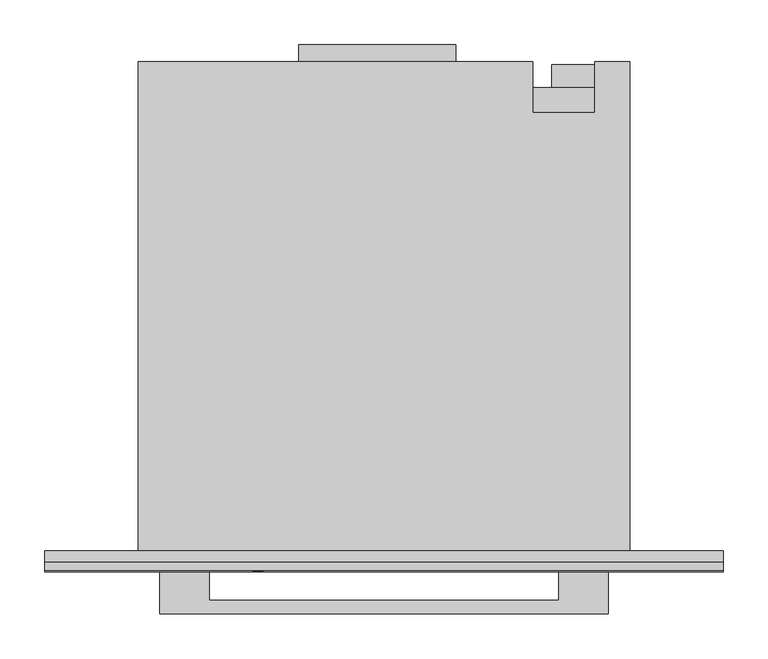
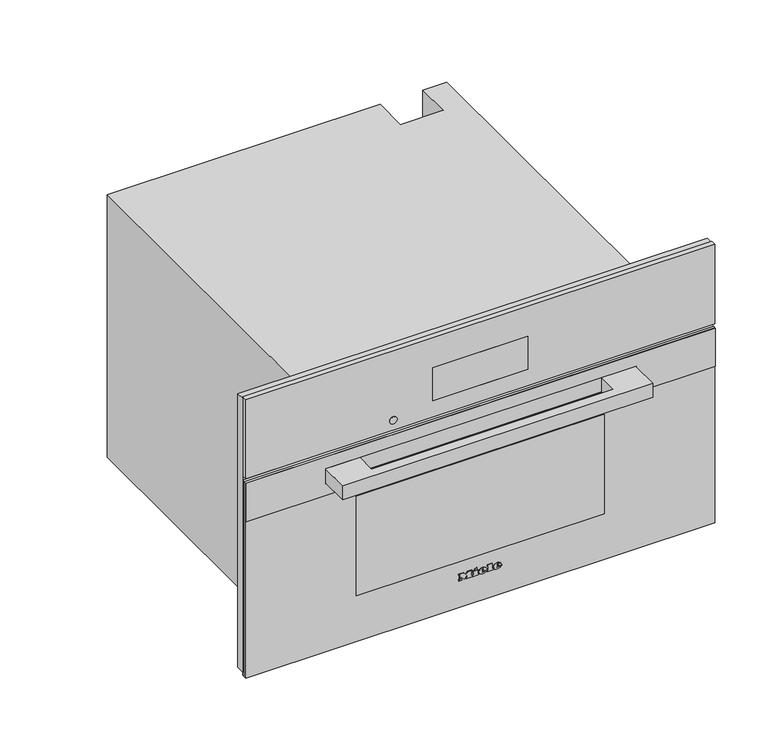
"""IFC4 building model written with IfcOpenShell, lengths in millimetres: proxy geometry, 11876080_USA_DGC7870_EDST-CLST : 23787042_USA_11876080_DGC7870_EDST-CLST."""

from ifc_helpers import new_model, si_unit, point, frame, frame_2d, origin, place, context, project, spatial, polyline, circle_curve, ellipse_curve, trimmed, segment, composite_curve, outline, extrude, faceted_brep, source, transform, mapped, element, save
from ifc_brep_helpers import plane_surface, cylinder_surface, revolved_surface, extruded_surface, advanced_brep


def specialty_equipment_35e1a356(model_context):
    return source(origin(), model_context, "Body", "SolidModel", [
        faceted_brep([(378.5, -13.0, 476.0), (-378.5, -13.0, 476.0), (-378.5, -13.0, 9.0), (-272.5, -13.0, 9.0), (-272.5, -13.0, 344.0), (272.5, -13.0, 344.0), (272.5, -13.0, 9.0), (378.5, -13.0, 9.0), (378.5, 0.0, 476.0), (378.5, 0.0, 9.0), (-378.5, 0.0, 9.0), (-378.5, 0.0, 476.0), (231.0, 0.0, 58.0), (231.0, 0.0, 286.0), (-231.0, 0.0, 286.0), (-231.0, 0.0, 58.0), (272.5, -5.0, 9.0), (-272.5, -5.0, 9.0), (-272.5, -5.0, 344.0), (272.5, -5.0, 344.0), (231.0, -5.0, 286.0), (231.0, -5.0, 58.0), (-231.0, -5.0, 58.0), (-231.0, -5.0, 286.0)], [[[0, 1, 2, 3, 4, 5, 6, 7]], [[8, 9, 10, 11], [12, 13, 14, 15]], [[1, 0, 8, 11]], [[2, 1, 11, 10]], [[10, 9, 7, 6, 16, 17, 3, 2]], [[0, 7, 9, 8]], [[18, 19, 5, 4]], [[18, 4, 3, 17]], [[5, 19, 16, 6]], [[19, 18, 17, 16], [20, 21, 22, 23]], [[20, 13, 12, 21]], [[21, 12, 15, 22]], [[22, 15, 14, 23]], [[13, 20, 23, 14]]]),
        extrude(outline(polyline([(-95.0, 565.0), (80.0, 565.0), (80.0, 546.0), (-95.0, 546.0), (-95.0, 565.0)])), frame((0.0, 0.0, 260.0), z_axis=(0.0, 0.0, 1.0), x_axis=(1.0, 0.0, 0.0)), (0.0, 0.0, 1.0), 1.0),
        extrude(outline(polyline([(224.8383288, 537.0), (231.1236409, 537.0), (231.1236409, 526.9492425), (229.8571792, 526.9492425), (229.8571792, 535.7409796), (224.8383288, 535.7409796), (224.8383288, 537.0)])), frame((0.0, 0.0, 132.0), z_axis=(0.0, 0.0, 1.0), x_axis=(1.0, 0.0, 0.0)), (0.0, 0.0, 1.0), 1.0),
        extrude(outline(polyline([(233.0, 537.0), (240.3797826, 537.0), (240.3797826, 526.9503529), (233.15422, 526.9503529), (233.15422, 528.220938), (239.1355215, 528.220938), (239.1355215, 531.1975645), (233.4863097, 531.1975645), (233.4863097, 532.449242), (239.1355215, 532.449242), (239.1355215, 535.7448633), (233.0, 535.7448633), (233.0, 537.0)])), frame((0.0, 0.0, 132.0), z_axis=(0.0, 0.0, 1.0), x_axis=(1.0, 0.0, 0.0)), (0.0, 0.0, 1.0), 1.0),
        extrude(outline(composite_curve([segment(trimmed(circle_curve(frame_2d((233.0, 532.0)), 7.5), [point((225.5, 532.0))], [point((240.5, 532.0))], False, "CARTESIAN"), True, "CONTINUOUS"), segment(trimmed(circle_curve(frame_2d((233.0, 532.0)), 7.5), [point((240.5, 532.0))], [point((225.5, 532.0))], False, "CARTESIAN"), True, "CONTINUOUS")], self_intersect=False)), frame((0.0, 0.0, 133.0), z_axis=(0.0, 0.0, 1.0), x_axis=(1.0, 0.0, 0.0)), (0.0, 0.0, 1.0), 30.0),
        extrude(outline(polyline([(266.0, 517.0), (187.0, 517.0), (187.0, 543.0), (266.0, 543.0), (266.0, 517.0)])), frame((0.0, 0.0, 163.0), z_axis=(0.0, 0.0, 1.0), x_axis=(1.0, 0.0, 0.0)), (0.0, 0.0, 1.0), 111.0),
        faceted_brep([(-274.0, 546.0, 0.0), (-274.0, 546.0, 448.0), (166.0, 546.0, 448.0), (166.0, 546.0, 0.0), (235.0, 546.0, 448.0), (274.0, 546.0, 448.0), (274.0, 546.0, 338.0), (235.0, 546.0, 338.0), (274.0, 0.0, 448.0), (-274.0, 0.0, 448.0), (-274.0, 0.0, 0.0), (274.0, 0.0, 0.0), (231.0, 0.0, 286.0), (231.0, 0.0, 58.0), (-231.0, 0.0, 58.0), (-231.0, 0.0, 286.0), (235.0, 489.0, 448.0), (166.0, 489.0, 448.0), (166.0, 517.0, 0.0), (274.0, 517.0, 0.0), (274.0, 517.0, 338.0), (231.0, 411.0, 286.0), (-231.0, 411.0, 286.0), (-231.0, 411.0, 58.0), (231.0, 411.0, 58.0), (235.0, 489.0, 337.0), (166.0, 489.0, 337.0), (166.0, 517.0, 337.0), (235.0, 517.0, 337.0), (235.0, 517.0, 338.0)], [[[0, 1, 2, 3]], [[4, 5, 6, 7]], [[8, 9, 10, 11], [12, 13, 14, 15]], [[9, 8, 5, 4, 16, 17, 2, 1]], [[1, 0, 10, 9]], [[11, 10, 0, 3, 18, 19]], [[8, 11, 19, 20, 6, 5]], [[21, 22, 23, 24]], [[21, 24, 13, 12]], [[24, 23, 14, 13]], [[23, 22, 15, 14]], [[22, 21, 12, 15]], [[16, 25, 26, 17]], [[17, 26, 27, 18, 3, 2]], [[26, 25, 28, 27]], [[25, 16, 4, 7, 29, 28]], [[29, 20, 19, 18, 27, 28]], [[20, 29, 7, 6]]]),
        advanced_brep(
        [(26.2998, -23.0, 52.7018), (26.2998, -23.0, 53.8532), (33.9264, -23.0, 53.8532), (20.6568, -23.0, 53.8532), (23.7918, -23.0, 50.0), (33.7326, -23.0, 52.7018), (30.2898, -23.0, 52.7018), (27.5766, -23.0, 51.425), (26.2998, -23.0, 55.3124), (26.2998, -23.0, 56.555), (28.2492, -23.0, 56.555), (28.2492, -23.0, 55.3124), (26.2998, -22.0, 52.7018), (27.5766, -22.0, 51.425), (30.2898, -22.0, 52.7018), (33.7326, -22.0, 52.7018), (23.7918, -22.0, 50.0), (20.6568, -22.0, 53.8532), (33.9264, -22.0, 53.8532), (26.2998, -22.0, 53.8532), (26.2998, -22.0, 55.3124), (28.2492, -22.0, 55.3124), (28.2492, -22.0, 56.555), (26.2998, -22.0, 56.555)],
        [
            (0, 1),
            (1, 2),
            (2, 3, ellipse_curve(frame((27.2916, -23.0, 53.8532), z_axis=(0.0, -1.0, 0.0), x_axis=(-1.0, 0.0, 0.0)), 6.6348, 5.4834)),
            (3, 4, circle_curve(frame((25.0686622, -23.0, 54.2408), z_axis=(0.0, -1.0, 0.0), x_axis=(0.0, 0.0, -1.0)), 4.4288556)),
            (4, 5, circle_curve(frame((27.1587808, -23.0, 57.2504), z_axis=(0.0, -1.0, 0.0), x_axis=(0.0, 0.0, -1.0)), 7.9940516)),
            (5, 6),
            (6, 7, circle_curve(frame((28.1338588, -23.0, 53.762), z_axis=(0.0, 1.0, 0.0), x_axis=(0.0, 0.0, -1.0)), 2.4025208)),
            (7, 0, circle_curve(frame((27.5766, -23.0, 52.7018), z_axis=(0.0, 1.0, 0.0), x_axis=(0.0, 0.0, -1.0)), 1.2768)),
            (8, 9),
            (9, 10, circle_curve(frame((27.2745, -23.0, 56.555), z_axis=(0.0, 1.0, 0.0), x_axis=(0.0, 0.0, -1.0)), 0.9747)),
            (10, 11),
            (11, 8),
            (12, 13, circle_curve(frame((27.5766, -22.0, 52.7018), z_axis=(0.0, -1.0, 0.0), x_axis=(0.0, 0.0, -1.0)), 1.2768)),
            (13, 14, circle_curve(frame((28.1338588, -22.0, 53.762), z_axis=(0.0, -1.0, 0.0), x_axis=(0.0, 0.0, -1.0)), 2.4025208)),
            (14, 15),
            (15, 16, circle_curve(frame((27.1587808, -22.0, 57.2504), z_axis=(0.0, 1.0, 0.0), x_axis=(0.0, 0.0, -1.0)), 7.9940516)),
            (16, 17, circle_curve(frame((25.0686622, -22.0, 54.2408), z_axis=(0.0, 1.0, 0.0), x_axis=(0.0, 0.0, -1.0)), 4.4288556)),
            (17, 18, ellipse_curve(frame((27.2916, -22.0, 53.8532), z_axis=(0.0, 1.0, 0.0), x_axis=(-1.0, 0.0, 0.0)), 6.6348, 5.4834)),
            (18, 19),
            (19, 12),
            (20, 21),
            (21, 22),
            (22, 23, circle_curve(frame((27.2745, -22.0, 56.555), z_axis=(0.0, -1.0, 0.0), x_axis=(0.0, 0.0, -1.0)), 0.9747)),
            (23, 20),
            (0, 12),
            (19, 1),
            (18, 2),
            (5, 15),
            (14, 6),
            (17, 3),
            (13, 7),
            (16, 4),
            (8, 20),
            (23, 9),
            (22, 10),
            (21, 11),
        ],
        [
            plane_surface(frame((26.2998, -23.0, 53.8532), z_axis=(0.0, -1.0, 0.0), x_axis=(0.0, 0.0, 1.0))),
            plane_surface(frame((26.2998, -22.0, 53.8532), z_axis=(0.0, 1.0, 0.0), x_axis=(0.0, 0.0, -1.0))),
            plane_surface(frame((26.2998, -23.0, 52.7018), z_axis=(1.0, 0.0, 0.0), x_axis=(0.0, 1.0, 0.0))),
            plane_surface(frame((26.2998, -23.0, 53.8532), z_axis=(0.0, 0.0, -1.0), x_axis=(0.0, 1.0, 0.0))),
            plane_surface(frame((33.7326, -23.0, 52.7018), z_axis=(0.0, 0.0, 1.0), x_axis=(0.0, 1.0, 0.0))),
            extruded_surface(trimmed(ellipse_curve(frame((27.2916, -21.0, 53.8532), z_axis=(0.0, -1.0, 0.0), x_axis=(-1.0, 0.0, 0.0)), 6.6348, 5.4834), [point((33.9264, -21.0, 53.8532))], [point((20.6568, -21.0, 53.8532))], True, "CARTESIAN"), (0.0, -1.0, 0.0), 1.0),
            revolved_surface(polyline([(28.1338588, -22.0, 51.3594792), (28.1338588, -23.0, 51.3594792)]), (28.1338588, -22.0, 53.762), (0.0, 1.0, 0.0)),
            revolved_surface(polyline([(27.5766, -22.0, 51.425), (27.5766, -23.0, 51.425)]), (27.5766, -22.0, 52.7018), (0.0, 1.0, 0.0)),
            cylinder_surface(frame((25.0686622, -22.0, 54.2408), z_axis=(0.0, -1.0, 0.0), x_axis=(0.0, 0.0, -1.0)), 4.4288556),
            cylinder_surface(frame((27.1587808, -22.0, 57.2504), z_axis=(0.0, -1.0, 0.0), x_axis=(0.0, 0.0, -1.0)), 7.9940516),
            plane_surface(frame((26.2998, -23.0, 55.3124), z_axis=(1.0, 0.0, 0.0), x_axis=(0.0, 1.0, 0.0))),
            revolved_surface(polyline([(27.2745, -22.0, 55.5803), (27.2745, -23.0, 55.5803)]), (27.2745, -22.0, 56.555), (0.0, 1.0, 0.0)),
            plane_surface(frame((28.2492, -23.0, 56.555), z_axis=(-1.0, 0.0, 0.0), x_axis=(0.0, 1.0, 0.0))),
            plane_surface(frame((28.2492, -23.0, 55.3124), z_axis=(0.0, 0.0, 1.0), x_axis=(0.0, 1.0, 0.0))),
        ],
        [
            (0, [[1, 2, 3, 4, 5, 6, 7, 8], [9, 10, 11, 12]]),
            (1, [[13, 14, 15, 16, 17, 18, 19, 20], [21, 22, 23, 24]]),
            (2, [[-1, 25, -20, 26]]),
            (3, [[-2, -26, -19, 27]]),
            (4, [[-6, 28, -15, 29]]),
            (5, [[-3, -27, -18, 30]]),
            (6, [[-7, -29, -14, 31]]),
            (7, [[-8, -31, -13, -25]]),
            (8, [[-4, -30, -17, 32]]),
            (9, [[-5, -32, -16, -28]]),
            (10, [[-9, 33, -24, 34]]),
            (11, [[-10, -34, -23, 35]]),
            (12, [[-11, -35, -22, 36]]),
            (13, [[-12, -36, -21, -33]]),
        ],
    ),
        advanced_brep(
        [(2.508, -23.0, 52.7018), (2.508, -23.0, 53.8532), (10.1346, -23.0, 53.8532), (-3.135, -23.0, 53.8532), (0.0, -23.0, 50.0), (9.9408, -23.0, 52.7018), (6.498, -23.0, 52.7018), (3.7848, -23.0, 51.425), (2.508, -23.0, 55.3124), (2.508, -23.0, 56.555), (4.4574, -23.0, 56.555), (4.4574, -23.0, 55.3124), (2.508, -22.0, 52.7018), (3.7848, -22.0, 51.425), (6.498, -22.0, 52.7018), (9.9408, -22.0, 52.7018), (0.0, -22.0, 50.0), (-3.135, -22.0, 53.8532), (10.1346, -22.0, 53.8532), (2.508, -22.0, 53.8532), (2.508, -22.0, 55.3124), (4.4574, -22.0, 55.3124), (4.4574, -22.0, 56.555), (2.508, -22.0, 56.555)],
        [
            (0, 1),
            (1, 2),
            (2, 3, ellipse_curve(frame((3.4998, -23.0, 53.8532), z_axis=(0.0, -1.0, 0.0), x_axis=(-1.0, 0.0, 0.0)), 6.6348, 5.4834)),
            (3, 4, circle_curve(frame((1.2768622, -23.0, 54.2408), z_axis=(0.0, -1.0, 0.0), x_axis=(0.0, 0.0, -1.0)), 4.4288556)),
            (4, 5, circle_curve(frame((3.3669808, -23.0, 57.2504), z_axis=(0.0, -1.0, 0.0), x_axis=(0.0, 0.0, -1.0)), 7.9940516)),
            (5, 6),
            (6, 7, circle_curve(frame((4.3420588, -23.0, 53.762), z_axis=(0.0, 1.0, 0.0), x_axis=(0.0, 0.0, -1.0)), 2.4025208)),
            (7, 0, circle_curve(frame((3.7848, -23.0, 52.7018), z_axis=(0.0, 1.0, 0.0), x_axis=(0.0, 0.0, -1.0)), 1.2768)),
            (8, 9),
            (9, 10, circle_curve(frame((3.4827, -23.0, 56.555), z_axis=(0.0, 1.0, 0.0), x_axis=(0.0, 0.0, -1.0)), 0.9747)),
            (10, 11),
            (11, 8),
            (12, 13, circle_curve(frame((3.7848, -22.0, 52.7018), z_axis=(0.0, -1.0, 0.0), x_axis=(0.0, 0.0, -1.0)), 1.2768)),
            (13, 14, circle_curve(frame((4.3420588, -22.0, 53.762), z_axis=(0.0, -1.0, 0.0), x_axis=(0.0, 0.0, -1.0)), 2.4025208)),
            (14, 15),
            (15, 16, circle_curve(frame((3.3669808, -22.0, 57.2504), z_axis=(0.0, 1.0, 0.0), x_axis=(0.0, 0.0, -1.0)), 7.9940516)),
            (16, 17, circle_curve(frame((1.2768622, -22.0, 54.2408), z_axis=(0.0, 1.0, 0.0), x_axis=(0.0, 0.0, -1.0)), 4.4288556)),
            (17, 18, ellipse_curve(frame((3.4998, -22.0, 53.8532), z_axis=(0.0, 1.0, 0.0), x_axis=(-1.0, 0.0, 0.0)), 6.6348, 5.4834)),
            (18, 19),
            (19, 12),
            (20, 21),
            (21, 22),
            (22, 23, circle_curve(frame((3.4827, -22.0, 56.555), z_axis=(0.0, -1.0, 0.0), x_axis=(0.0, 0.0, -1.0)), 0.9747)),
            (23, 20),
            (0, 12),
            (19, 1),
            (18, 2),
            (5, 15),
            (14, 6),
            (17, 3),
            (13, 7),
            (16, 4),
            (8, 20),
            (23, 9),
            (22, 10),
            (21, 11),
        ],
        [
            plane_surface(frame((2.508, -23.0, 53.8532), z_axis=(0.0, -1.0, 0.0), x_axis=(0.0, 0.0, 1.0))),
            plane_surface(frame((2.508, -22.0, 53.8532), z_axis=(0.0, 1.0, 0.0), x_axis=(0.0, 0.0, -1.0))),
            plane_surface(frame((2.508, -23.0, 52.7018), z_axis=(1.0, 0.0, 0.0), x_axis=(0.0, 1.0, 0.0))),
            plane_surface(frame((2.508, -23.0, 53.8532), z_axis=(0.0, 0.0, -1.0), x_axis=(0.0, 1.0, 0.0))),
            plane_surface(frame((9.9408, -23.0, 52.7018), z_axis=(0.0, 0.0, 1.0), x_axis=(0.0, 1.0, 0.0))),
            extruded_surface(trimmed(ellipse_curve(frame((3.4998, -21.0, 53.8532), z_axis=(0.0, -1.0, 0.0), x_axis=(-1.0, 0.0, 0.0)), 6.6348, 5.4834), [point((10.1346, -21.0, 53.8532))], [point((-3.135, -21.0, 53.8532))], True, "CARTESIAN"), (0.0, -1.0, 0.0), 1.0),
            revolved_surface(polyline([(4.3420588, -22.0, 51.3594792), (4.3420588, -23.0, 51.3594792)]), (4.3420588, -22.0, 53.762), (0.0, 1.0, 0.0)),
            revolved_surface(polyline([(3.7848, -22.0, 51.425), (3.7848, -23.0, 51.425)]), (3.7848, -22.0, 52.7018), (0.0, 1.0, 0.0)),
            cylinder_surface(frame((1.2768622, -22.0, 54.2408), z_axis=(0.0, -1.0, 0.0), x_axis=(0.0, 0.0, -1.0)), 4.4288556),
            cylinder_surface(frame((3.3669808, -22.0, 57.2504), z_axis=(0.0, -1.0, 0.0), x_axis=(0.0, 0.0, -1.0)), 7.9940516),
            plane_surface(frame((2.508, -23.0, 55.3124), z_axis=(1.0, 0.0, 0.0), x_axis=(0.0, 1.0, 0.0))),
            revolved_surface(polyline([(3.4827, -22.0, 55.5803), (3.4827, -23.0, 55.5803)]), (3.4827, -22.0, 56.555), (0.0, 1.0, 0.0)),
            plane_surface(frame((4.4574, -23.0, 56.555), z_axis=(-1.0, 0.0, 0.0), x_axis=(0.0, 1.0, 0.0))),
            plane_surface(frame((4.4574, -23.0, 55.3124), z_axis=(0.0, 0.0, 1.0), x_axis=(0.0, 1.0, 0.0))),
        ],
        [
            (0, [[1, 2, 3, 4, 5, 6, 7, 8], [9, 10, 11, 12]]),
            (1, [[13, 14, 15, 16, 17, 18, 19, 20], [21, 22, 23, 24]]),
            (2, [[-1, 25, -20, 26]]),
            (3, [[-2, -26, -19, 27]]),
            (4, [[-6, 28, -15, 29]]),
            (5, [[-3, -27, -18, 30]]),
            (6, [[-7, -29, -14, 31]]),
            (7, [[-8, -31, -13, -25]]),
            (8, [[-4, -30, -17, 32]]),
            (9, [[-5, -32, -16, -28]]),
            (10, [[-9, 33, -24, 34]]),
            (11, [[-10, -34, -23, 35]]),
            (12, [[-11, -35, -22, 36]]),
            (13, [[-12, -36, -21, -33]]),
        ],
    ),
        extrude(outline(polyline([(60.7274, -9.9522), (58.8806, -9.0858), (60.6818, -5.2212), (62.5286, -6.0762), (60.7274, -9.9522)])), frame((0.0, -23.0, 0.0), z_axis=(0.0, 1.0, 0.0), x_axis=(0.0, 0.0, 1.0)), (0.0, 0.0, 1.0), 1.0),
        extrude(outline(polyline([(58.6298, -12.768), (56.5892, -12.768), (56.5892, -11.4114), (51.9152, -11.4114), (51.9152, -12.768), (50.0, -12.768), (50.0, -3.7734), (51.9152, -3.7734), (51.9152, -5.0958), (58.6298, -5.0958), (58.6298, -12.768)])), frame((0.0, -23.0, 0.0), z_axis=(0.0, 1.0, 0.0), x_axis=(0.0, 0.0, 1.0)), (0.0, 0.0, 1.0), 1.0),
        extrude(outline(polyline([(59.5418, 10.773), (59.5418, 12.141), (51.9152, 12.141), (51.9152, 10.773), (50.0, 10.773), (50.0, 20.0184), (51.9152, 20.0184), (51.9152, 18.6162), (61.4, 18.6162), (61.4, 10.773), (59.5418, 10.773)])), frame((0.0, -23.0, 0.0), z_axis=(0.0, 1.0, 0.0), x_axis=(0.0, 0.0, 1.0)), (0.0, 0.0, 1.0), 1.0),
        extrude(outline(polyline([(59.5418, -35.4882), (59.5418, -34.1088), (51.9152, -34.1088), (51.9152, -35.4882), (50.0, -35.4882), (50.0, -30.4722), (51.9152, -30.4722), (51.9152, -31.8402), (56.7429247, -31.8402), (50.0, -26.7444), (56.9402223, -21.6258), (51.9152, -21.6258), (51.9152, -23.028), (50.0, -23.028), (50.0, -13.9308), (51.9152, -13.9308), (51.9152, -15.3786), (59.5418, -15.3786), (59.5418, -13.9308), (61.4, -13.9308), (61.4, -20.8734), (57.125, -24.2022), (61.4, -27.5424), (61.4, -35.4882), (59.5418, -35.4882)])), frame((0.0, -23.0, 0.0), z_axis=(0.0, 1.0, 0.0), x_axis=(0.0, 0.0, 1.0)), (0.0, 0.0, 1.0), 1.0),
        extrude(outline(composite_curve([segment(trimmed(circle_curve(frame_2d((361.0, -140.5745637)), 6.0), [point((361.0, -146.5745637))], [point((361.0, -134.5745637))], False, "CARTESIAN"), True, "CONTINUOUS"), segment(trimmed(circle_curve(frame_2d((361.0, -140.5745637)), 6.0), [point((361.0, -134.5745637))], [point((361.0, -146.5745637))], False, "CARTESIAN"), True, "CONTINUOUS")], self_intersect=False)), frame((0.0, -22.5, 0.0), z_axis=(0.0, 1.0, 0.0), x_axis=(0.0, 0.0, 1.0)), (0.0, 0.0, 1.0), 1.0),
        extrude(outline(polyline([(-76.5, -21.0), (76.5, -21.0), (76.5, -22.0), (-76.5, -22.0), (-76.5, -21.0)])), frame((0.0, 0.0, 372.0), z_axis=(0.0, 0.0, 1.0), x_axis=(1.0, 0.0, 0.0)), (0.0, 0.0, 1.0), 56.0),
        faceted_brep([(378.5, -22.0, 479.0), (-378.5, -22.0, 479.0), (-378.5, -22.0, 344.0), (378.5, -22.0, 344.0), (76.5, -22.0, 428.0), (76.5, -22.0, 372.0), (-76.5, -22.0, 372.0), (-76.5, -22.0, 428.0), (378.5, -13.0, 479.0), (378.5, -13.0, 344.0), (-378.5, -13.0, 344.0), (-378.5, -13.0, 479.0), (76.5, -21.0, 428.0), (-76.5, -21.0, 428.0), (-76.5, -21.0, 372.0), (76.5, -21.0, 372.0)], [[[0, 1, 2, 3], [4, 5, 6, 7]], [[8, 9, 10, 11]], [[1, 0, 8, 11]], [[2, 1, 11, 10]], [[3, 2, 10, 9]], [[0, 3, 9, 8]], [[12, 13, 14, 15]], [[12, 15, 5, 4]], [[15, 14, 6, 5]], [[14, 13, 7, 6]], [[13, 12, 4, 7]]]),
        extrude(outline(polyline([(200.0, -22.0), (-200.0, -22.0), (-200.0, -18.0), (200.0, -18.0), (200.0, -22.0)])), frame((0.0, 0.0, 82.0), z_axis=(0.0, 0.0, 1.0), x_axis=(1.0, 0.0, 0.0)), (0.0, 0.0, 1.0), 170.0),
        extrude(outline(polyline([(337.0, 378.5), (337.0, -378.5), (4.0, -378.5), (4.0, 378.5), (337.0, 378.5)]), holes=[polyline([(252.0, -200.0), (252.0, 200.0), (82.0, 200.0), (82.0, -200.0), (252.0, -200.0)])]), frame((0.0, -22.0, 0.0), z_axis=(0.0, 1.0, 0.0), x_axis=(0.0, 0.0, 1.0)), (0.0, 0.0, 1.0), 4.0),
        extrude(outline(polyline([(337.0, 378.5), (337.0, -378.5), (272.0, -378.5), (272.0, 378.5), (337.0, 378.5)]), holes=[polyline([(317.0, -250.5), (317.0, 250.5), (292.0, 250.5), (292.0, -250.5), (317.0, -250.5)])]), frame((0.0, -23.3, 0.0), z_axis=(0.0, 1.0, 0.0), x_axis=(0.0, 0.0, 1.0)), (0.0, 0.0, 1.0), 1.3),
        extrude(outline(polyline([(-250.0, -70.3), (-250.0, -22.0), (-195.0, -22.0), (-195.0, -55.3), (195.0, -55.3), (195.0, -22.0), (250.0, -22.0), (250.0, -70.3), (-250.0, -70.3)])), frame((0.0, 0.0, 292.5), z_axis=(0.0, 0.0, 1.0), x_axis=(1.0, 0.0, 0.0)), (0.0, 0.0, 1.0), 24.0),
        extrude(outline(polyline([(378.5, -18.0), (-378.5, -18.0), (-378.5, -13.0), (378.5, -13.0), (378.5, -18.0)])), frame((0.0, 0.0, 4.0), z_axis=(0.0, 0.0, 1.0), x_axis=(1.0, 0.0, 0.0)), (0.0, 0.0, 1.0), 333.0),
    ])


if __name__ == "__main__":
    model = new_model("IFC4")
    model_context = context("Model", 3, world=origin())
    ifc_project = project(units=[si_unit("LENGTHUNIT", "METRE", prefix="MILLI")], contexts=[model_context])
    site = spatial("IfcSite", under=ifc_project)
    building = spatial("IfcBuilding", under=site)
    placement = place(None, origin())
    specialty_equipment_shape = specialty_equipment_35e1a356(model_context)
    element("IfcBuildingElementProxy", 1, Name="11876080_USA_DGC7870_EDST-CLST : 23787042_USA_11876080_DGC7870_EDST-CLST", ObjectType="11876080_USA_DGC7870_EDST-CLST : 23787042_USA_11876080_DGC7870_EDST-CLST", at=placement, inside=building, context=model_context, shape_type="MappedRepresentation", body=[
        mapped(specialty_equipment_shape, transform((0.0, 0.0, 0.0), x_axis=(1.0, 0.0, 0.0), y_axis=(0.0, 1.0, 0.0), z_axis=(0.0, 0.0, 1.0))),
    ])
    save(model, "model.ifc")
